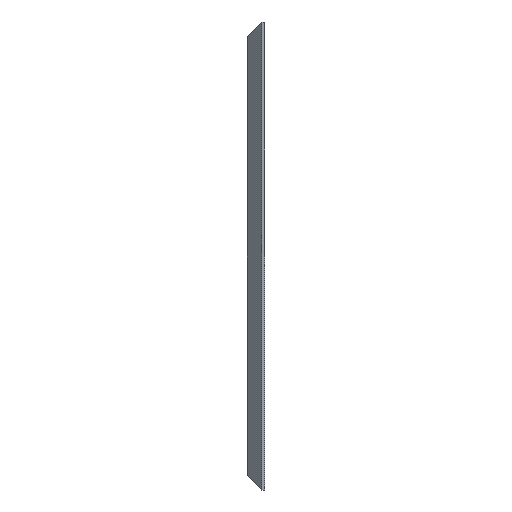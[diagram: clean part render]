
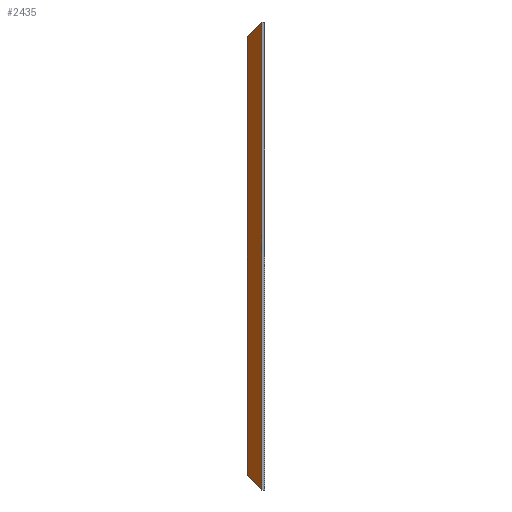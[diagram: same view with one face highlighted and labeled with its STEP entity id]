
A CAD part, left-side view. The second image highlights one B-rep face of the part: STEP entity #2435.
In plain terms, the highlighted planar face has unit normal (-0.707, 0.707, 0).
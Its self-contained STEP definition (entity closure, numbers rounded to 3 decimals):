
#108 = CARTESIAN_POINT ( 'NONE',  ( 25., 413.5, -383.5 ) ) ;
#508 = DIRECTION ( 'NONE',  ( -0.707, -0.707, 0. ) ) ;
#573 = PLANE ( 'NONE',  #4257 ) ;
#842 = DIRECTION ( 'NONE',  ( 0.707, -0.707, 0. ) ) ;
#913 = CARTESIAN_POINT ( 'NONE',  ( 0., 388.5, 416.5 ) ) ;
#940 = DIRECTION ( 'NONE',  ( 0., 0., -1. ) ) ;
#1765 = EDGE_CURVE ( 'NONE', #6075, #6129, #6753, .T. ) ;
#1825 = EDGE_CURVE ( 'NONE', #6000, #6075, #6841, .T. ) ;
#1830 = EDGE_CURVE ( 'NONE', #6129, #5898, #6847, .T. ) ;
#2204 = EDGE_CURVE ( 'NONE', #5898, #6000, #4675, .T. ) ;
#2435 = ADVANCED_FACE ( 'NONE', ( #4960 ), #573, .F. ) ;
#3251 = DIRECTION ( 'NONE',  ( -0.577, -0.577, 0.577 ) ) ;
#3252 = CARTESIAN_POINT ( 'NONE',  ( 16.667, 405.167, 399.833 ) ) ;
#3265 = DIRECTION ( 'NONE',  ( 0.577, 0.577, 0.577 ) ) ;
#3266 = CARTESIAN_POINT ( 'NONE',  ( 16.667, 405.167, -366.833 ) ) ;
#3432 = DIRECTION ( 'NONE',  ( 0., 0., 1. ) ) ;
#3433 = CARTESIAN_POINT ( 'NONE',  ( 25., 413.5, -383.5 ) ) ;
#4257 = AXIS2_PLACEMENT_3D ( 'NONE', #108, #842, #508 ) ;
#4675 = LINE ( 'NONE', #913, #4677 ) ;
#4677 = VECTOR ( 'NONE', #940, 1000. ) ;
#4960 = FACE_OUTER_BOUND ( 'NONE', #6448, .T. ) ;
#5898 = VERTEX_POINT ( 'NONE', #9154 ) ;
#6000 = VERTEX_POINT ( 'NONE', #9015 ) ;
#6075 = VERTEX_POINT ( 'NONE', #8918 ) ;
#6129 = VERTEX_POINT ( 'NONE', #8844 ) ;
#6448 = EDGE_LOOP ( 'NONE', ( #7765, #7764, #7763, #7762 ) ) ;
#6753 = LINE ( 'NONE', #3433, #6754 ) ;
#6754 = VECTOR ( 'NONE', #3432, 1000. ) ;
#6841 = LINE ( 'NONE', #3266, #6843 ) ;
#6843 = VECTOR ( 'NONE', #3265, 1000. ) ;
#6847 = LINE ( 'NONE', #3252, #6849 ) ;
#6849 = VECTOR ( 'NONE', #3251, 1000. ) ;
#7762 = ORIENTED_EDGE ( 'NONE', *, *, #1765, .F. ) ;
#7763 = ORIENTED_EDGE ( 'NONE', *, *, #1830, .F. ) ;
#7764 = ORIENTED_EDGE ( 'NONE', *, *, #2204, .F. ) ;
#7765 = ORIENTED_EDGE ( 'NONE', *, *, #1825, .F. ) ;
#8844 = CARTESIAN_POINT ( 'NONE',  ( 25., 413.5, 391.5 ) ) ;
#8918 = CARTESIAN_POINT ( 'NONE',  ( 25., 413.5, -358.5 ) ) ;
#9015 = CARTESIAN_POINT ( 'NONE',  ( 0., 388.5, -383.5 ) ) ;
#9154 = CARTESIAN_POINT ( 'NONE',  ( 0., 388.5, 416.5 ) ) ;
